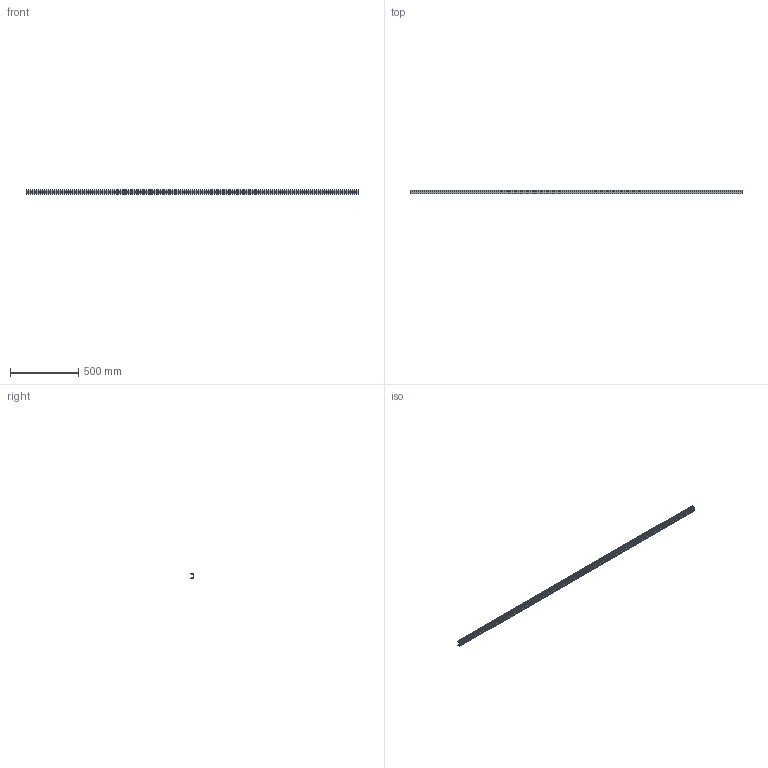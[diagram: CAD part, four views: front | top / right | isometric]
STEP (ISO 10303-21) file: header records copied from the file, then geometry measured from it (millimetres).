
FILE_DESCRIPTION( ( 'STEP AP203' ), '1' );
FILE_NAME( 'C:/Temp/Ganter_Step_05_03_2020/data/3_8/gn_646_3/Carrier profile GN 646.3-2430-B (15).stp', '2020-03-12T15:24:30', ( 'License CC BY-ND 4.0' ), ( 'CADENAS' ), ' ', 'PARTsolutions', ' ' );
FILE_SCHEMA( ( 'CONFIG_CONTROL_DESIGN' ) );
Length unit declared in the file: millimetre
Products named in the file (1): _Carrier profile GN 646.3-2430-B (15)
Bounding box: 2430 x 26.5 x 36 mm (x, y, z)
Volume: 400688.3 mm3; surface area: 506227.2 mm2
Topology: 1 solids, 1 shells, 472 faces, 1410 edges, 940 vertices
Faces by surface type: plane 250, cylinder 222
Entity records: 16382 total; most frequent: CARTESIAN_POINT 2823, ORIENTED_EDGE 2820, DIRECTION 2800, EDGE_CURVE 1410, LINE 966, VECTOR 966, VERTEX_POINT 940, AXIS2_PLACEMENT_3D 917
